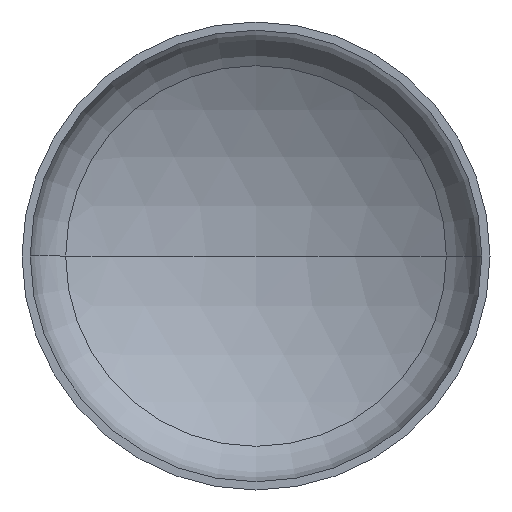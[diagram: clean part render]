
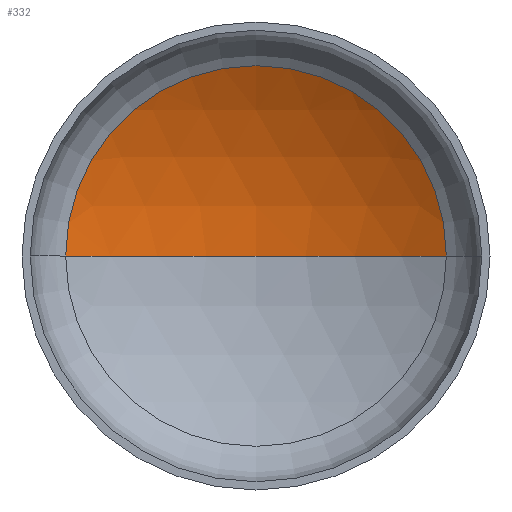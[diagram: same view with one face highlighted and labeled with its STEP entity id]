
A CAD part, front view. The second image highlights one B-rep face of the part: STEP entity #332.
In plain terms, the highlighted spherical face has radius 1040 mm.
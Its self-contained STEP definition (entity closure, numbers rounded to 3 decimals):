
#6 = AXIS2_PLACEMENT_3D ( 'NONE', #254, #186, #295 ) ;
#16 = EDGE_LOOP ( 'NONE', ( #49, #40, #165 ) ) ;
#23 = DIRECTION ( 'NONE',  ( -1., 0., 0. ) ) ;
#40 = ORIENTED_EDGE ( 'NONE', *, *, #144, .T. ) ;
#49 = ORIENTED_EDGE ( 'NONE', *, *, #156, .F. ) ;
#58 = AXIS2_PLACEMENT_3D ( 'NONE', #203, #214, #218 ) ;
#61 = AXIS2_PLACEMENT_3D ( 'NONE', #104, #98, #23 ) ;
#63 = AXIS2_PLACEMENT_3D ( 'NONE', #209, #398, #253 ) ;
#98 = DIRECTION ( 'NONE',  ( 0., 0., -1. ) ) ;
#104 = CARTESIAN_POINT ( 'NONE',  ( 0., -653.375, 0. ) ) ;
#111 = VERTEX_POINT ( 'NONE', #221 ) ;
#117 = VERTEX_POINT ( 'NONE', #260 ) ;
#119 = EDGE_CURVE ( 'NONE', #129, #111, #147, .T. ) ;
#129 = VERTEX_POINT ( 'NONE', #210 ) ;
#144 = EDGE_CURVE ( 'NONE', #117, #129, #334, .T. ) ;
#147 = CIRCLE ( 'NONE', #63, 528.667 ) ;
#156 = EDGE_CURVE ( 'NONE', #117, #111, #200, .T. ) ;
#165 = ORIENTED_EDGE ( 'NONE', *, *, #119, .T. ) ;
#169 = SPHERICAL_SURFACE ( 'NONE', #6, 1040. ) ;
#186 = DIRECTION ( 'NONE',  ( 0., 0., -1. ) ) ;
#200 = CIRCLE ( 'NONE', #58, 1040. ) ;
#203 = CARTESIAN_POINT ( 'NONE',  ( 0., -653.375, 0. ) ) ;
#209 = CARTESIAN_POINT ( 'NONE',  ( 0., 242.232, 0. ) ) ;
#210 = CARTESIAN_POINT ( 'NONE',  ( 528.667, 242.232, 0. ) ) ;
#214 = DIRECTION ( 'NONE',  ( 0., 0., 1. ) ) ;
#218 = DIRECTION ( 'NONE',  ( 1., 0., 0. ) ) ;
#221 = CARTESIAN_POINT ( 'NONE',  ( -528.667, 242.232, 0. ) ) ;
#253 = DIRECTION ( 'NONE',  ( 1., 0., 0. ) ) ;
#254 = CARTESIAN_POINT ( 'NONE',  ( 0., -653.375, 0. ) ) ;
#260 = CARTESIAN_POINT ( 'NONE',  ( 0., 386.625, 0. ) ) ;
#282 = FACE_OUTER_BOUND ( 'NONE', #16, .T. ) ;
#295 = DIRECTION ( 'NONE',  ( -1., 0., 0. ) ) ;
#332 = ADVANCED_FACE ( 'NONE', ( #282 ), #169, .F. ) ;
#334 = CIRCLE ( 'NONE', #61, 1040. ) ;
#398 = DIRECTION ( 'NONE',  ( 0., -1., 0. ) ) ;
